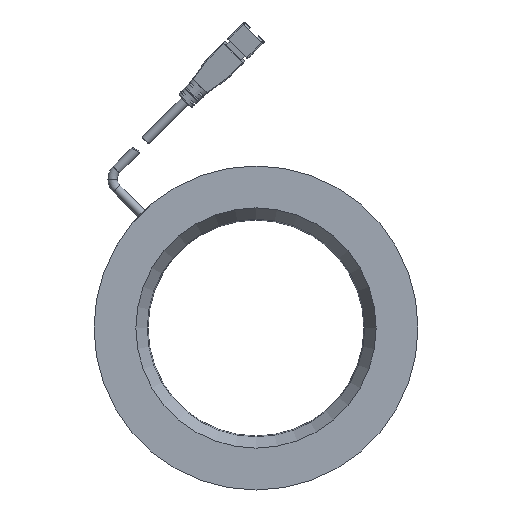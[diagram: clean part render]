
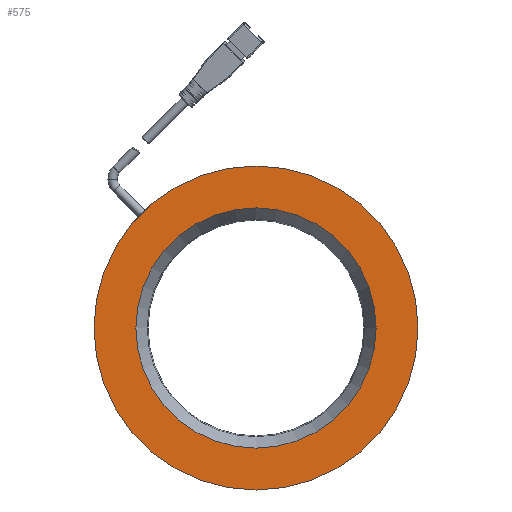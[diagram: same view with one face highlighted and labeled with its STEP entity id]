
A CAD part, front view. The second image highlights one B-rep face of the part: STEP entity #575.
In plain terms, the highlighted planar face has unit normal (0, -1, 0).
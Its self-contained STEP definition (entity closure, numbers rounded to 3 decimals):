
#5=CARTESIAN_POINT('',(0.,-23.,0.));
#6=DIRECTION('',(0.,1.,0.));
#7=DIRECTION('',(1.,0.,0.));
#8=AXIS2_PLACEMENT_3D('',#5,#6,#7);
#10=CARTESIAN_POINT('',(0.,-23.,0.));
#11=DIRECTION('',(0.,1.,0.));
#12=DIRECTION('',(-1.,0.,0.));
#13=AXIS2_PLACEMENT_3D('',#10,#11,#12);
#15=CARTESIAN_POINT('',(0.,-23.,0.));
#16=DIRECTION('',(0.,-1.,0.));
#17=DIRECTION('',(-1.,0.,0.));
#18=AXIS2_PLACEMENT_3D('',#15,#16,#17);
#20=CARTESIAN_POINT('',(0.,-23.,0.));
#21=DIRECTION('',(0.,-1.,0.));
#22=DIRECTION('',(1.,0.,0.));
#23=AXIS2_PLACEMENT_3D('',#20,#21,#22);
#433=CARTESIAN_POINT('',(-44.494,-23.,0.));
#434=CARTESIAN_POINT('',(44.494,-23.,0.));
#435=VERTEX_POINT('',#433);
#436=VERTEX_POINT('',#434);
#441=CARTESIAN_POINT('',(60.,-23.,0.));
#442=CARTESIAN_POINT('',(-60.,-23.,0.));
#443=VERTEX_POINT('',#441);
#444=VERTEX_POINT('',#442);
#559=CARTESIAN_POINT('',(60.,-23.,-100.));
#560=DIRECTION('',(0.,1.,0.));
#561=DIRECTION('',(-1.,0.,0.));
#562=AXIS2_PLACEMENT_3D('',#559,#560,#561);
#563=PLANE('',#562);
#565=ORIENTED_EDGE('',*,*,#564,.T.);
#567=ORIENTED_EDGE('',*,*,#566,.T.);
#568=EDGE_LOOP('',(#565,#567));
#569=FACE_OUTER_BOUND('',#568,.F.);
#570=ORIENTED_EDGE('',*,*,#548,.T.);
#572=ORIENTED_EDGE('',*,*,#571,.T.);
#573=EDGE_LOOP('',(#570,#572));
#574=FACE_BOUND('',#573,.F.);
#9=CIRCLE('',#8,60.);
#14=CIRCLE('',#13,60.);
#19=CIRCLE('',#18,44.494);
#24=CIRCLE('',#23,44.494);
#548=EDGE_CURVE('',#435,#436,#19,.T.);
#564=EDGE_CURVE('',#443,#444,#9,.T.);
#566=EDGE_CURVE('',#444,#443,#14,.T.);
#571=EDGE_CURVE('',#436,#435,#24,.T.);
#575=ADVANCED_FACE('',(#569,#574),#563,.F.);
